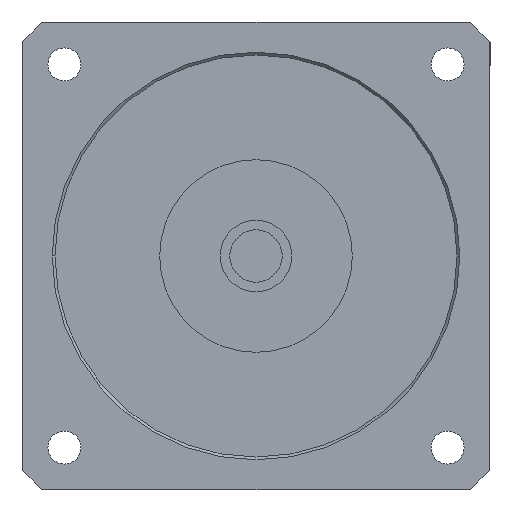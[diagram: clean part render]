
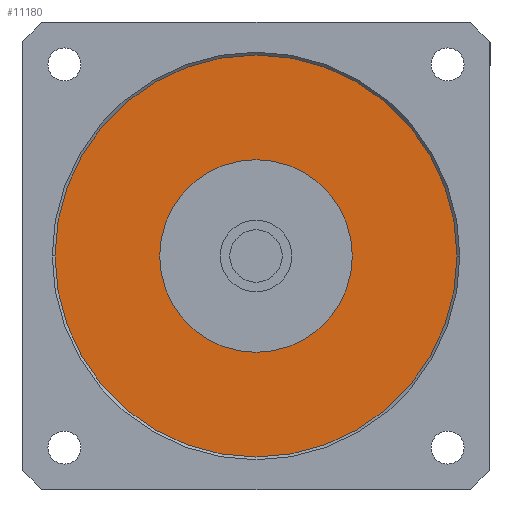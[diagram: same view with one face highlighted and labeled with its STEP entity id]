
A CAD part, left-side view. The second image highlights one B-rep face of the part: STEP entity #11180.
In plain terms, the highlighted planar face has unit normal (-1, 0, 0) as drawn and (0, 0, -1) by its records, which use the part's own axes.
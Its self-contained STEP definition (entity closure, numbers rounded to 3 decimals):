
#10620=CARTESIAN_POINT('',(0.,17.5,-36.5));
#10630=VERTEX_POINT('',#10620);
#10660=CARTESIAN_POINT('',(0.,0.,
-36.5));
#10670=DIRECTION('',(0.,0.,1.));
#10680=DIRECTION('',(0.,1.,0.));
#10690=AXIS2_PLACEMENT_3D('',#10660,#10670,#10680);
#10700=CIRCLE('',#10690,17.5);
#10710=CARTESIAN_POINT('',(0.,-17.5,-36.5));
#10720=VERTEX_POINT('',#10710);
#10730=EDGE_CURVE('',#10630,#10720,#10700,.T.);
#10930=CARTESIAN_POINT('',(0.,-36.51,-36.5));
#10940=DIRECTION('',(0.,0.,-1.));
#10950=DIRECTION('',(0.,-1.,0.));
#10960=AXIS2_PLACEMENT_3D('',#10930,#10940,#10950);
#10970=PLANE('',#10960);
#10980=ORIENTED_EDGE('',*,*,#10730,.T.);
#10990=EDGE_CURVE('',#10720,#10630,#10700,.T.);
#11000=ORIENTED_EDGE('',*,*,#10990,.T.);
#11010=EDGE_LOOP('',(#11000,#10980));
#11020=FACE_BOUND('',#11010,.T.);
#11030=CARTESIAN_POINT('',(0.,0.,
-36.5));
#11040=DIRECTION('',(0.,0.,1.));
#11050=DIRECTION('',(0.,1.,0.));
#11060=AXIS2_PLACEMENT_3D('',#11030,#11040,#11050);
#11070=CIRCLE('',#11060,36.51);
#11080=CARTESIAN_POINT('',(0.,36.51,-36.5));
#11090=VERTEX_POINT('',#11080);
#11100=CARTESIAN_POINT('',(0.,-36.51,-36.5));
#11110=VERTEX_POINT('',#11100);
#11120=EDGE_CURVE('',#11090,#11110,#11070,.T.);
#11130=ORIENTED_EDGE('',*,*,#11120,.F.);
#11140=EDGE_CURVE('',#11110,#11090,#11070,.T.);
#11150=ORIENTED_EDGE('',*,*,#11140,.F.);
#11160=EDGE_LOOP('',(#11150,#11130));
#11170=FACE_OUTER_BOUND('',#11160,.T.);
#11180=ADVANCED_FACE('',(#11020,#11170),#10970,.T.);
